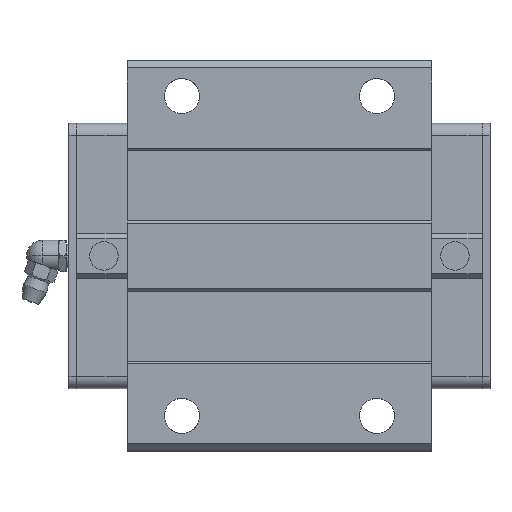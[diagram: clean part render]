
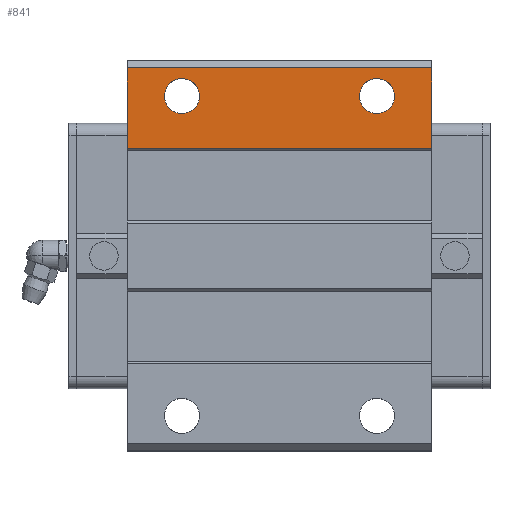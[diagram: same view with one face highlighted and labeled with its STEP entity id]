
A CAD part, top view. The second image highlights one B-rep face of the part: STEP entity #841.
In plain terms, the highlighted planar face has unit normal (0, 0, 1).
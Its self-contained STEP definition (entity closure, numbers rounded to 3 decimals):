
#183=CARTESIAN_POINT('POINT16',(33.5,41.,37.));
#184=VERTEX_POINT('VERTEX16',#183);
#200=CARTESIAN_POINT('POINT18',(24.5,41.,37.));
#201=VERTEX_POINT('VERTEX18',#200);
#208=CARTESIAN_POINT('POS26',(29.,41.,37.));
#209=DIRECTION('DIR37',(0.,0.,-1.));
#210=DIRECTION('DIR38',(1.,0.,0.));
#211=AXIS2_PLACEMENT_3D('AXIS12',#208,#209,#210);
#212=CIRCLE('ELLIPSE7',#211,4.5);
#213=EDGE_CURVE('EDGE21',#184,#201,#212,.T.);
#224=EDGE_CURVE('EDGE22',#201,#184,#212,.T.);
#238=CARTESIAN_POINT('POINT21',(83.5,41.,37.));
#239=VERTEX_POINT('VERTEX21',#238);
#255=CARTESIAN_POINT('POINT23',(74.5,41.,37.));
#256=VERTEX_POINT('VERTEX23',#255);
#263=CARTESIAN_POINT('POS31',(79.,41.,37.));
#264=DIRECTION('DIR45',(0.,0.,-1.));
#265=DIRECTION('DIR46',(1.,0.,0.));
#266=AXIS2_PLACEMENT_3D('AXIS15',#263,#264,#265);
#267=CIRCLE('ELLIPSE9',#266,4.5);
#268=EDGE_CURVE('EDGE28',#239,#256,#267,.T.);
#279=EDGE_CURVE('EDGE29',#256,#239,#267,.T.);
#772=CARTESIAN_POINT('POINT62',(93.,27.65,37.));
#773=VERTEX_POINT('VERTEX62',#772);
#780=CARTESIAN_POINT('POINT63',(15.,27.65,37.));
#781=VERTEX_POINT('VERTEX63',#780);
#782=CARTESIAN_POINT('POS89',(15.,27.65,37.));
#783=DIRECTION('DIR127',(1.,0.,0.));
#784=VECTOR('VEC51',#783,1.);
#785=LINE('STRAIGHT51',#782,#784);
#786=EDGE_CURVE('EDGE83',#781,#773,#785,.T.);
#803=ORIENTED_EDGE('COEDGE115',*,*,#268,.T.);
#804=ORIENTED_EDGE('COEDGE116',*,*,#279,.T.);
#805=EDGE_LOOP('NONE',(#803,#804));
#806=FACE_BOUND('LOOP1',#805,.T.);
#807=ORIENTED_EDGE('COEDGE117',*,*,#213,.T.);
#808=ORIENTED_EDGE('COEDGE118',*,*,#224,.T.);
#809=EDGE_LOOP('NONE',(#807,#808));
#810=FACE_BOUND('LOOP1',#809,.T.);
#811=CARTESIAN_POINT('POINT64',(93.,48.2,37.));
#812=VERTEX_POINT('VERTEX64',#811);
#813=CARTESIAN_POINT('POS92',(93.,27.65,37.));
#814=DIRECTION('DIR131',(0.,1.,0.));
#815=VECTOR('VEC53',#814,1.);
#816=LINE('STRAIGHT53',#813,#815);
#817=EDGE_CURVE('EDGE85',#773,#812,#816,.T.);
#818=ORIENTED_EDGE('COEDGE119',*,*,#817,.T.);
#819=CARTESIAN_POINT('POINT65',(15.,48.2,37.));
#820=VERTEX_POINT('VERTEX65',#819);
#821=CARTESIAN_POINT('POS93',(15.,48.2,37.));
#822=DIRECTION('DIR132',(1.,0.,0.));
#823=VECTOR('VEC54',#822,1.);
#824=LINE('STRAIGHT54',#821,#823);
#825=EDGE_CURVE('EDGE86',#820,#812,#824,.T.);
#826=ORIENTED_EDGE('COEDGE120',*,*,#825,.F.);
#827=CARTESIAN_POINT('POS94',(15.,27.65,37.));
#828=DIRECTION('DIR133',(0.,1.,0.));
#829=VECTOR('VEC55',#828,1.);
#830=LINE('STRAIGHT55',#827,#829);
#831=EDGE_CURVE('EDGE87',#781,#820,#830,.T.);
#832=ORIENTED_EDGE('COEDGE121',*,*,#831,.F.);
#833=ORIENTED_EDGE('COEDGE122',*,*,#786,.T.);
#834=EDGE_LOOP('NONE',(#818,#826,#832,#833));
#835=FACE_BOUND('LOOP1',#834,.T.);
#836=CARTESIAN_POINT('POS95',(15.,27.65,37.));
#837=DIRECTION('DIR134',(0.,0.,1.));
#838=DIRECTION('DIR135',(1.,0.,0.));
#839=AXIS2_PLACEMENT_3D('AXIS40',#836,#837,#838);
#840=PLANE('PLANE16',#839);
#841=ADVANCED_FACE('FACE26',(#806,#810,#835),#840,.T.);
